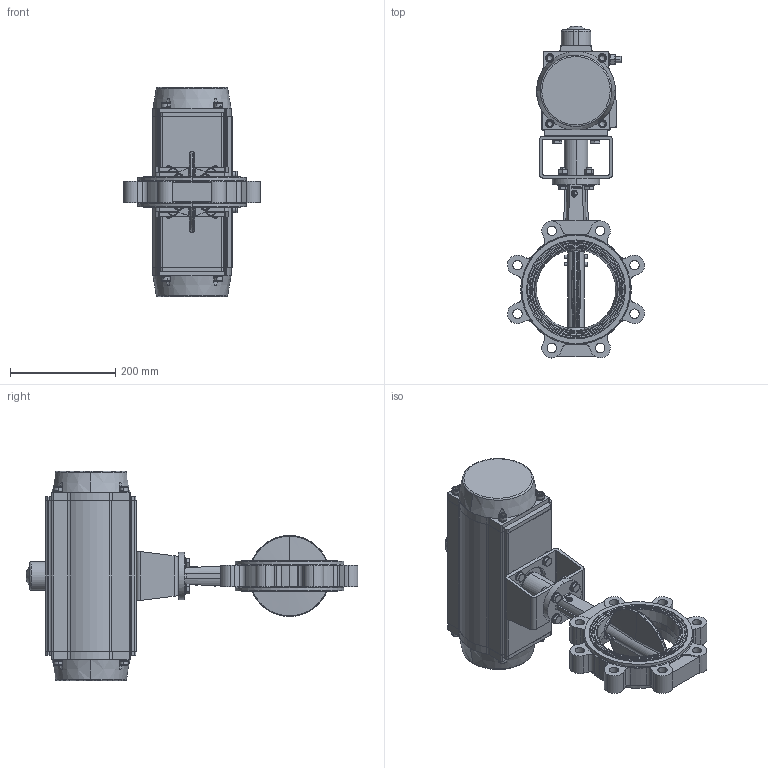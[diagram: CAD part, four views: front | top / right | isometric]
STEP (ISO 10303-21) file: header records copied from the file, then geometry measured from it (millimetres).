
FILE_DESCRIPTION (( 'STEP AP214' ), '1' );
FILE_NAME ('VPG464X-N07XX0150.step', '2022-06-07T06:26:37', ( '' ), ( '' ), 'SwSTEP 2.0', 'SolidWorks 2020', '' );
FILE_SCHEMA (( 'AUTOMOTIVE_DESIGN' ));
Length unit declared in the file: millimetre
Products named in the file (1): VPG464X-N07XX0150
Bounding box: 260.64 x 631.29 x 398 mm (x, y, z)
Surface area: 646180.8 mm2 (no closed solid volume)
Topology: 0 solids, 101 shells, 891 faces, 4731 edges, 3918 vertices
Faces by surface type: plane 360, cylinder 298, cone 129, bspline 100, torus 4
Entity records: 78065 total; most frequent: CARTESIAN_POINT 34110, ORIENTED_EDGE 6493, DIRECTION 5941, EDGE_CURVE 4727, VERTEX_POINT 3918, LINE 2313, VECTOR 2313, AXIS2_PLACEMENT_3D 1814
